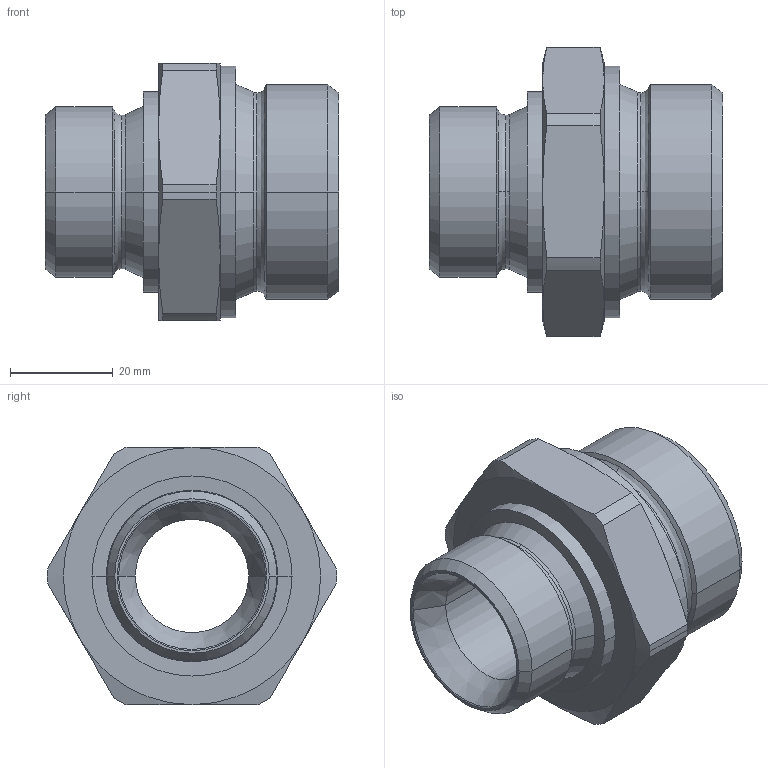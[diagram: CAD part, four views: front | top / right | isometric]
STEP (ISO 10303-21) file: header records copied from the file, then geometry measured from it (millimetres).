
FILE_DESCRIPTION((''),'2;1');
FILE_NAME('300523.stp','2006-09-11T08:13:38',(''),(''),'AutoCAD STEP 2000i','AutoCAD 2000i',', , ');
FILE_SCHEMA(('CONFIG_CONTROL_DESIGN'));
Length unit declared in the file: millimetre
Products named in the file (2): 300523.0; CHIAVE SMUSSATA#0
Assembly tree (1 placements, depth 2):
  300523.0
    CHIAVE SMUSSATA#0
Bounding box: 57 x 56.2 x 50 mm (x, y, z)
Volume: 45938.6 mm3; surface area: 14894.4 mm2
Topology: 1 solids, 1 shells, 76 faces, 178 edges, 106 vertices
Faces by surface type: cone 34, cylinder 20, plane 10, bspline 8, torus 4
Entity records: 2593 total; most frequent: CARTESIAN_POINT 762, DIRECTION 400, ORIENTED_EDGE 356, EDGE_CURVE 178, AXIS2_PLACEMENT_3D 176, VERTEX_POINT 106, CIRCLE 106, EDGE_LOOP 80
